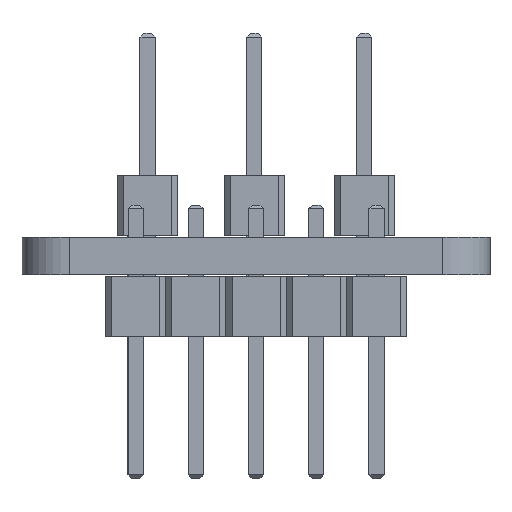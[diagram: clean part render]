
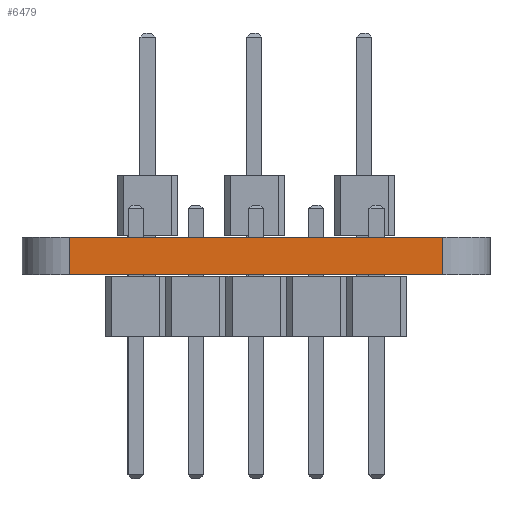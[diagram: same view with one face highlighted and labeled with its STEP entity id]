
A CAD part, front view. The second image highlights one B-rep face of the part: STEP entity #6479.
In plain terms, the highlighted planar face has unit normal (0, -1, 0).
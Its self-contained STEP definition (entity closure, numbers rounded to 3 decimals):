
#5842 = VERTEX_POINT('',#5843);
#5843 = CARTESIAN_POINT('',(136.904,-78.061,0.));
#5850 = EDGE_CURVE('',#5851,#5842,#5853,.T.);
#5851 = VERTEX_POINT('',#5852);
#5852 = CARTESIAN_POINT('',(152.663,-78.061,0.));
#5853 = LINE('',#5854,#5855);
#5854 = CARTESIAN_POINT('',(152.663,-78.061,0.));
#5855 = VECTOR('',#5856,1.);
#5856 = DIRECTION('',(-1.,0.,0.));
#6147 = VERTEX_POINT('',#6148);
#6148 = CARTESIAN_POINT('',(136.904,-78.061,1.6));
#6155 = EDGE_CURVE('',#6156,#6147,#6158,.T.);
#6156 = VERTEX_POINT('',#6157);
#6157 = CARTESIAN_POINT('',(152.663,-78.061,1.6));
#6158 = LINE('',#6159,#6160);
#6159 = CARTESIAN_POINT('',(152.663,-78.061,1.6));
#6160 = VECTOR('',#6161,1.);
#6161 = DIRECTION('',(-1.,0.,0.));
#6451 = EDGE_CURVE('',#5851,#6156,#6452,.T.);
#6452 = LINE('',#6453,#6454);
#6453 = CARTESIAN_POINT('',(152.663,-78.061,0.));
#6454 = VECTOR('',#6455,1.);
#6455 = DIRECTION('',(0.,0.,1.));
#6479 = ADVANCED_FACE('',(#6480),#6491,.T.);
#6480 = FACE_BOUND('',#6481,.T.);
#6481 = EDGE_LOOP('',(#6482,#6483,#6484,#6490));
#6482 = ORIENTED_EDGE('',*,*,#6451,.T.);
#6483 = ORIENTED_EDGE('',*,*,#6155,.T.);
#6484 = ORIENTED_EDGE('',*,*,#6485,.F.);
#6485 = EDGE_CURVE('',#5842,#6147,#6486,.T.);
#6486 = LINE('',#6487,#6488);
#6487 = CARTESIAN_POINT('',(136.904,-78.061,0.));
#6488 = VECTOR('',#6489,1.);
#6489 = DIRECTION('',(0.,0.,1.));
#6490 = ORIENTED_EDGE('',*,*,#5850,.F.);
#6491 = PLANE('',#6492);
#6492 = AXIS2_PLACEMENT_3D('',#6493,#6494,#6495);
#6493 = CARTESIAN_POINT('',(152.663,-78.061,0.));
#6494 = DIRECTION('',(0.,-1.,0.));
#6495 = DIRECTION('',(-1.,0.,0.));
